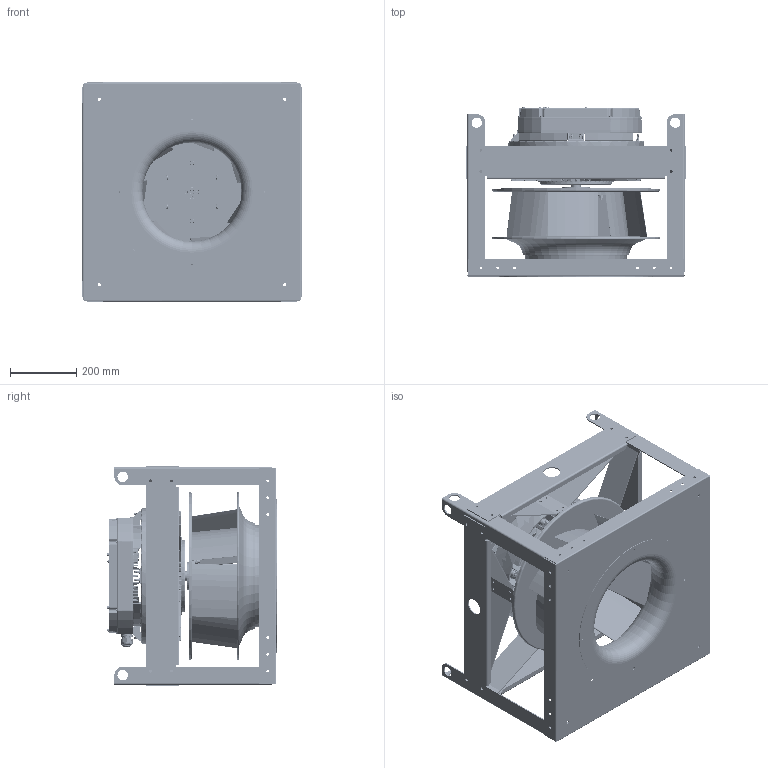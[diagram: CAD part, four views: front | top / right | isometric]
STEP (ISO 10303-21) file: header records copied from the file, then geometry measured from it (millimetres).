
FILE_DESCRIPTION (( 'STEP AP214' ), '1' );
FILE_NAME ('655779.STEP', '2026-06-10T19:13:17', ( '' ), ( '' ), 'SwSTEP 2.0', 'SolidWorks 2023', '' );
FILE_SCHEMA (( 'AUTOMOTIVE_DESIGN' ));
Length unit declared in the file: inch
Products named in the file (8): 651567_651567; 768036CS_768036CS; 655779; SXPI STRAP_651579; 925517CS_925517CS; 768048CS_748048CS; 651602_651602; 651593_651593
Assembly tree (16 placements, depth 2):
  655779
    651567_651567
    651602_651602  x4
    651593_651593  x4
    925517CS_925517CS
    768036CS_768036CS
    768048CS_748048CS
    SXPI STRAP_651579  x4
Bounding box: 663.7 x 513.43 x 663.7 mm (x, y, z)
Volume: 5788206.8 mm3; surface area: 5359825.4 mm2
Topology: 50 solids, 272 shells, 4785 faces, 14873 edges, 10096 vertices
Faces by surface type: cylinder 1404, plane 1328, bspline 1133, cone 508, torus 407, sphere 5
Full cylindrical faces by diameter (mm): 2.9 x2, 3.962 x4, 5.105 x16, 6 x144, 7 x5, 7.137 x16, 7.544 x1, 7.937 x3, 7.938 x1, 8.5 x1, 8.738 x87, 9 x5, 9.73 x8, 10.1 x1, 10.2 x1, 11.8 x7, 12.5 x1, 12.6 x1, 13 x7, 14 x1, 17.462 x4, 23.5 x1, 25.4 x1, 25.5 x2, 26.2 x1, 26.35 x1, 26.416 x2, 26.5 x1, 28.575 x1, 29.75 x1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
Entity records: 332547 total; most frequent: CARTESIAN_POINT 225295, ORIENTED_EDGE 21955, DIRECTION 19236, EDGE_CURVE 13391, VERTEX_POINT 9305, AXIS2_PLACEMENT_3D 7657, EDGE_LOOP 5229, FACE_OUTER_BOUND 4545
